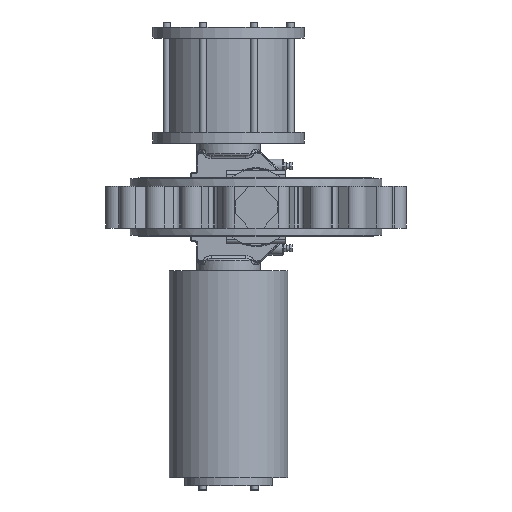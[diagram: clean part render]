
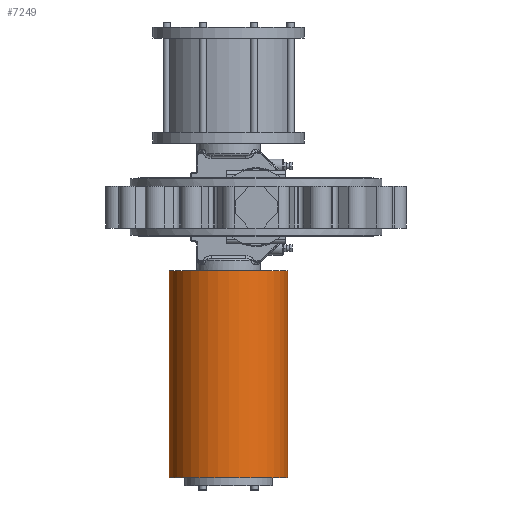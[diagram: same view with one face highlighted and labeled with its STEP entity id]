
A CAD part, front view. The second image highlights one B-rep face of the part: STEP entity #7249.
In plain terms, the highlighted cylindrical face has radius 162.5 mm (diameter 325 mm), a partial arc.
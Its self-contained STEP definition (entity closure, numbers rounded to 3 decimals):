
#1033 = EDGE_CURVE ( 'NONE', #6047, #28727, #19659, .T. ) ;
#1108 = CARTESIAN_POINT ( 'NONE',  ( 175., 0., 0. ) ) ;
#1790 = DIRECTION ( 'NONE',  ( 1., 0., 0. ) ) ;
#2090 = CARTESIAN_POINT ( 'NONE',  ( 175., 0., 162.5 ) ) ;
#2813 = CARTESIAN_POINT ( 'NONE',  ( 0., 0., 0. ) ) ;
#3000 = DIRECTION ( 'NONE',  ( 1., 0., 0. ) ) ;
#5009 = ORIENTED_EDGE ( 'NONE', *, *, #12984, .F. ) ;
#5992 = CARTESIAN_POINT ( 'NONE',  ( 741., 0., -162.5 ) ) ;
#6047 = VERTEX_POINT ( 'NONE', #15043 ) ;
#6342 = CARTESIAN_POINT ( 'NONE',  ( 741., 0., 162.5 ) ) ;
#7249 = ADVANCED_FACE ( 'NONE', ( #17850 ), #30154, .T. ) ;
#7456 = DIRECTION ( 'NONE',  ( 1., 0., 0. ) ) ;
#8978 = EDGE_CURVE ( 'NONE', #10257, #23742, #24624, .T. ) ;
#10254 = AXIS2_PLACEMENT_3D ( 'NONE', #1108, #21295, #13840 ) ;
#10257 = VERTEX_POINT ( 'NONE', #2090 ) ;
#10580 = ORIENTED_EDGE ( 'NONE', *, *, #1033, .T. ) ;
#10962 = ORIENTED_EDGE ( 'NONE', *, *, #15629, .T. ) ;
#12984 = EDGE_CURVE ( 'NONE', #23742, #28727, #19648, .T. ) ;
#13078 = DIRECTION ( 'NONE',  ( 0., 0., -1. ) ) ;
#13840 = DIRECTION ( 'NONE',  ( 0., 0., -1. ) ) ;
#15043 = CARTESIAN_POINT ( 'NONE',  ( 175., 0., -162.5 ) ) ;
#15049 = DIRECTION ( 'NONE',  ( 0., 0., -1. ) ) ;
#15629 = EDGE_CURVE ( 'NONE', #10257, #6047, #21328, .T. ) ;
#16692 = CARTESIAN_POINT ( 'NONE',  ( 0., 0., -162.5 ) ) ;
#17850 = FACE_OUTER_BOUND ( 'NONE', #25629, .T. ) ;
#17852 = VECTOR ( 'NONE', #1790, 1000. ) ;
#19648 = CIRCLE ( 'NONE', #26026, 162.5 ) ;
#19659 = LINE ( 'NONE', #16692, #32190 ) ;
#19821 = DIRECTION ( 'NONE',  ( 1., 0., 0. ) ) ;
#21295 = DIRECTION ( 'NONE',  ( 1., 0., 0. ) ) ;
#21328 = CIRCLE ( 'NONE', #10254, 162.5 ) ;
#23742 = VERTEX_POINT ( 'NONE', #6342 ) ;
#24624 = LINE ( 'NONE', #26802, #17852 ) ;
#24714 = AXIS2_PLACEMENT_3D ( 'NONE', #2813, #7456, #15049 ) ;
#25629 = EDGE_LOOP ( 'NONE', ( #28649, #10962, #10580, #5009 ) ) ;
#26026 = AXIS2_PLACEMENT_3D ( 'NONE', #27845, #3000, #13078 ) ;
#26802 = CARTESIAN_POINT ( 'NONE',  ( 0., 0., 162.5 ) ) ;
#27845 = CARTESIAN_POINT ( 'NONE',  ( 741., 0., 0. ) ) ;
#28649 = ORIENTED_EDGE ( 'NONE', *, *, #8978, .F. ) ;
#28727 = VERTEX_POINT ( 'NONE', #5992 ) ;
#30154 = CYLINDRICAL_SURFACE ( 'NONE', #24714, 162.5 ) ;
#32190 = VECTOR ( 'NONE', #19821, 1000. ) ;
